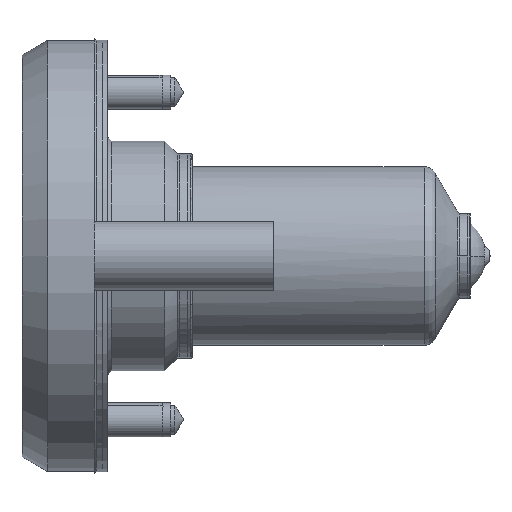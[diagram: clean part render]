
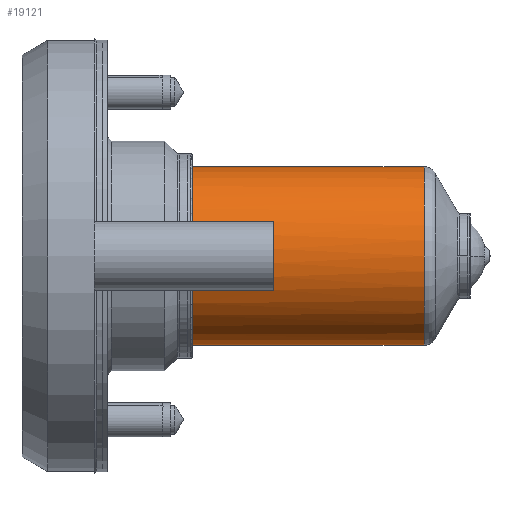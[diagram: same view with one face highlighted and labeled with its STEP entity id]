
A CAD part, left-side view. The second image highlights one B-rep face of the part: STEP entity #19121.
In plain terms, the highlighted cylindrical face has radius 21 mm (diameter 42 mm), a partial arc.
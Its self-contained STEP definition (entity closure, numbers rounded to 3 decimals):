
#419 = VERTEX_POINT ( 'NONE', #4131 ) ;
#700 = CARTESIAN_POINT ( 'NONE',  ( 0., -15., -21. ) ) ;
#720 = EDGE_CURVE ( 'NONE', #14309, #15972, #22666, .T. ) ;
#888 = CARTESIAN_POINT ( 'NONE',  ( -19.416, -34., -8. ) ) ;
#1216 = DIRECTION ( 'NONE',  ( 0., 0., -1. ) ) ;
#2406 = VECTOR ( 'NONE', #7829, 1000. ) ;
#2596 = CIRCLE ( 'NONE', #27379, 21. ) ;
#3695 = DIRECTION ( 'NONE',  ( 0., -1., 0. ) ) ;
#3844 = CARTESIAN_POINT ( 'NONE',  ( 0., -90.37, 21. ) ) ;
#4131 = CARTESIAN_POINT ( 'NONE',  ( -19.416, -34., 8. ) ) ;
#5488 = EDGE_CURVE ( 'NONE', #18251, #22157, #28624, .T. ) ;
#5825 = VECTOR ( 'NONE', #29257, 1000. ) ;
#6353 = DIRECTION ( 'NONE',  ( 0., 0., 1. ) ) ;
#6556 = DIRECTION ( 'NONE',  ( 0., 0., -1. ) ) ;
#6795 = CARTESIAN_POINT ( 'NONE',  ( 0., -15., 21. ) ) ;
#7544 = EDGE_CURVE ( 'NONE', #22741, #21703, #15364, .T. ) ;
#7794 = AXIS2_PLACEMENT_3D ( 'NONE', #22093, #17009, #12979 ) ;
#7829 = DIRECTION ( 'NONE',  ( 0., -1., 0. ) ) ;
#8267 = CYLINDRICAL_SURFACE ( 'NONE', #17982, 21. ) ;
#8700 = VECTOR ( 'NONE', #26677, 1000. ) ;
#9685 = EDGE_CURVE ( 'NONE', #18251, #19658, #29273, .T. ) ;
#10069 = LINE ( 'NONE', #19164, #2406 ) ;
#10615 = EDGE_LOOP ( 'NONE', ( #13916, #15389, #11353, #14246, #14098, #19500, #17144, #25020 ) ) ;
#11353 = ORIENTED_EDGE ( 'NONE', *, *, #27532, .T. ) ;
#11864 = EDGE_CURVE ( 'NONE', #22157, #21703, #2596, .T. ) ;
#12813 = CIRCLE ( 'NONE', #22358, 21. ) ;
#12979 = DIRECTION ( 'NONE',  ( 0., 0., -1. ) ) ;
#13916 = ORIENTED_EDGE ( 'NONE', *, *, #5488, .F. ) ;
#14098 = ORIENTED_EDGE ( 'NONE', *, *, #720, .F. ) ;
#14246 = ORIENTED_EDGE ( 'NONE', *, *, #29361, .F. ) ;
#14309 = VERTEX_POINT ( 'NONE', #16332 ) ;
#15364 = LINE ( 'NONE', #27138, #5825 ) ;
#15389 = ORIENTED_EDGE ( 'NONE', *, *, #9685, .T. ) ;
#15972 = VERTEX_POINT ( 'NONE', #888 ) ;
#16332 = CARTESIAN_POINT ( 'NONE',  ( -19.416, -15., -8. ) ) ;
#17009 = DIRECTION ( 'NONE',  ( 0., -1., 0. ) ) ;
#17144 = ORIENTED_EDGE ( 'NONE', *, *, #7544, .T. ) ;
#17717 = VECTOR ( 'NONE', #22807, 1000. ) ;
#17982 = AXIS2_PLACEMENT_3D ( 'NONE', #19760, #28866, #1216 ) ;
#18186 = DIRECTION ( 'NONE',  ( 0., -1., 0. ) ) ;
#18251 = VERTEX_POINT ( 'NONE', #6795 ) ;
#19022 = CARTESIAN_POINT ( 'NONE',  ( 0., -69.528, 21. ) ) ;
#19121 = ADVANCED_FACE ( 'NONE', ( #21992 ), #8267, .T. ) ;
#19164 = CARTESIAN_POINT ( 'NONE',  ( -19.416, -90.37, 8. ) ) ;
#19500 = ORIENTED_EDGE ( 'NONE', *, *, #22846, .T. ) ;
#19658 = VERTEX_POINT ( 'NONE', #25822 ) ;
#19760 = CARTESIAN_POINT ( 'NONE',  ( 0., -90.37, 0. ) ) ;
#21703 = VERTEX_POINT ( 'NONE', #27083 ) ;
#21992 = FACE_OUTER_BOUND ( 'NONE', #10615, .T. ) ;
#22093 = CARTESIAN_POINT ( 'NONE',  ( 0., -15., 0. ) ) ;
#22157 = VERTEX_POINT ( 'NONE', #19022 ) ;
#22226 = CARTESIAN_POINT ( 'NONE',  ( -19.416, -90.37, -8. ) ) ;
#22358 = AXIS2_PLACEMENT_3D ( 'NONE', #24151, #3695, #26530 ) ;
#22535 = CARTESIAN_POINT ( 'NONE',  ( 0., -69.528, 0. ) ) ;
#22666 = LINE ( 'NONE', #22226, #17717 ) ;
#22741 = VERTEX_POINT ( 'NONE', #700 ) ;
#22807 = DIRECTION ( 'NONE',  ( 0., -1., 0. ) ) ;
#22846 = EDGE_CURVE ( 'NONE', #14309, #22741, #12813, .T. ) ;
#24151 = CARTESIAN_POINT ( 'NONE',  ( 0., -15., 0. ) ) ;
#25020 = ORIENTED_EDGE ( 'NONE', *, *, #11864, .F. ) ;
#25822 = CARTESIAN_POINT ( 'NONE',  ( -19.416, -15., 8. ) ) ;
#26488 = CARTESIAN_POINT ( 'NONE',  ( 0., -34., 0. ) ) ;
#26530 = DIRECTION ( 'NONE',  ( 0., 0., -1. ) ) ;
#26677 = DIRECTION ( 'NONE',  ( 0., -1., 0. ) ) ;
#26786 = DIRECTION ( 'NONE',  ( 0., 1., 0. ) ) ;
#27083 = CARTESIAN_POINT ( 'NONE',  ( 0., -69.528, -21. ) ) ;
#27138 = CARTESIAN_POINT ( 'NONE',  ( 0., -90.37, -21. ) ) ;
#27379 = AXIS2_PLACEMENT_3D ( 'NONE', #22535, #18186, #6556 ) ;
#27532 = EDGE_CURVE ( 'NONE', #19658, #419, #10069, .T. ) ;
#28608 = AXIS2_PLACEMENT_3D ( 'NONE', #26488, #26786, #6353 ) ;
#28624 = LINE ( 'NONE', #3844, #8700 ) ;
#28866 = DIRECTION ( 'NONE',  ( 0., -1., 0. ) ) ;
#29084 = CIRCLE ( 'NONE', #28608, 21. ) ;
#29257 = DIRECTION ( 'NONE',  ( 0., -1., 0. ) ) ;
#29273 = CIRCLE ( 'NONE', #7794, 21. ) ;
#29361 = EDGE_CURVE ( 'NONE', #15972, #419, #29084, .T. ) ;
